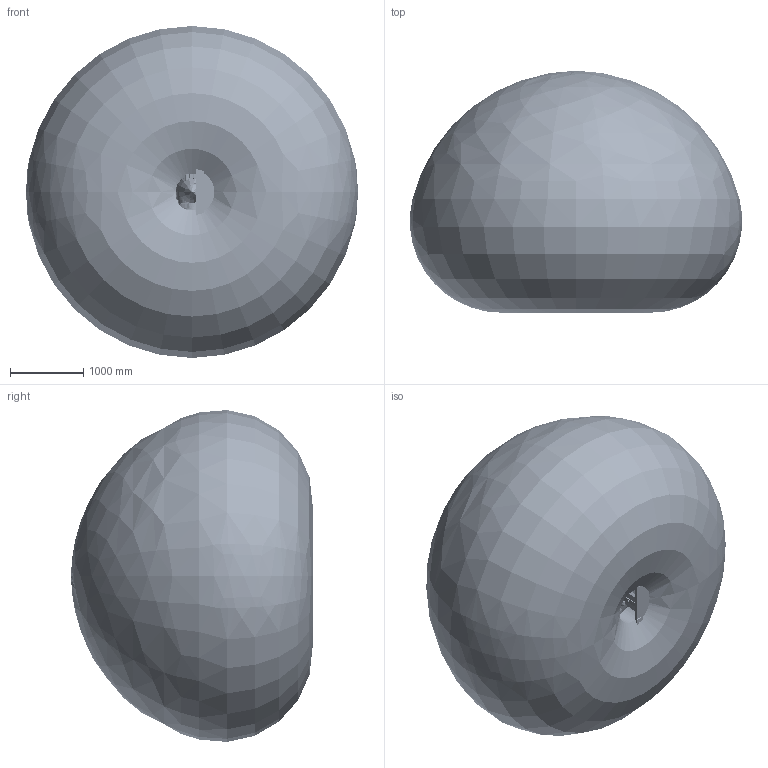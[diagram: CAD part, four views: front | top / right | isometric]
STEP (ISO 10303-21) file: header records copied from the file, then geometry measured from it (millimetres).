
FILE_DESCRIPTION(('CAx-IF Rec.Pracs.---Model Styling and Organization---1.2---2011-12-15','CAx-IF Rec.Pracs.---Geometric and Assembly Validation Properties---4.1---2014-06-16','CAx-IF Rec.Pracs.---PMI Polyline Presentation---2.0---2013-05-24'),'2;1');
FILE_NAME('N-220-2.7.stp','2022-04-04T10:49:19+02:00',(''),(''),'STEP Interface 4.3 by CT CoreTechnologie','3D_Evolution4.3 by CT CoreTechnologie','');
FILE_SCHEMA(('AP203_CONFIGURATION_CONTROLLED_3D_DESIGN_OF_MECHANICAL_PARTS_AND_ASSEMBLIES_MIM_LF'));
Length unit declared in the file: millimetre
Products named in the file (1): N-220-2.7
Bounding box: 4533.18 x 3299.42 x 4535.77 mm (x, y, z)
Volume: 36644388466.2 mm3; surface area: 77938528.5 mm2
Topology: 128 solids, 156 shells, 6855 faces, 18589 edges, 12260 vertices
Faces by surface type: bspline 6855
Entity records: 755451 total; most frequent: CARTESIAN_POINT 382307, ORIENTED_EDGE 36939, PROPERTY_DEFINITION 29569, DIRECTION 23765, EDGE_CURVE 18505, REPRESENTATION 14785, PROPERTY_DEFINITION_REPRESENTATION 14785, SHAPE_REPRESENTATION 14785
